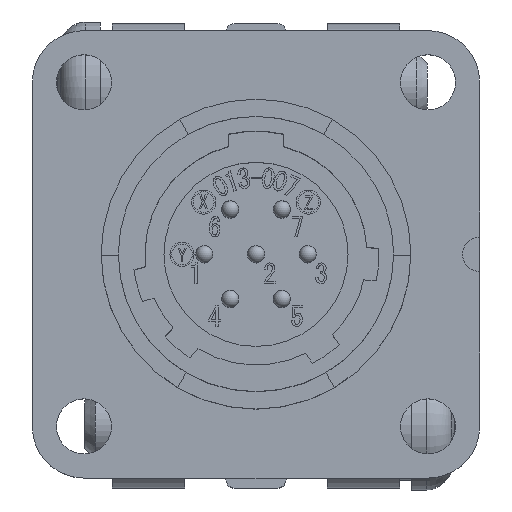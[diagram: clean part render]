
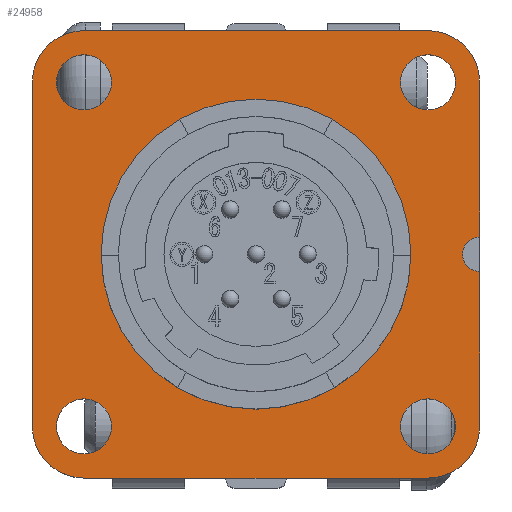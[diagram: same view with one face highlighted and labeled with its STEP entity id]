
A CAD part, top view. The second image highlights one B-rep face of the part: STEP entity #24958.
In plain terms, the highlighted planar face has unit normal (0, 0, 1).
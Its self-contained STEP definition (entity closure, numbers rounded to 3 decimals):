
#95 = CARTESIAN_POINT ( 'NONE',  ( 13., -10., -10.5 ) ) ;
#212 = AXIS2_PLACEMENT_3D ( 'NONE', #5192, #2560, #31311 ) ;
#256 = DIRECTION ( 'NONE',  ( 1., 0., 0. ) ) ;
#354 = EDGE_CURVE ( 'NONE', #11413, #11413, #32260, .T. ) ;
#496 = CARTESIAN_POINT ( 'NONE',  ( 13., 1., -10.5 ) ) ;
#1116 = EDGE_LOOP ( 'NONE', ( #18994 ) ) ;
#1284 = ORIENTED_EDGE ( 'NONE', *, *, #29826, .F. ) ;
#1420 = DIRECTION ( 'NONE',  ( 0., -1., 0. ) ) ;
#1422 = LINE ( 'NONE', #20886, #7516 ) ;
#1836 = CARTESIAN_POINT ( 'NONE',  ( -9., 0., -10.5 ) ) ;
#1862 = FACE_BOUND ( 'NONE', #32952, .T. ) ;
#1909 = CARTESIAN_POINT ( 'NONE',  ( 0., 13., -10.5 ) ) ;
#1936 = ORIENTED_EDGE ( 'NONE', *, *, #25991, .F. ) ;
#1953 = DIRECTION ( 'NONE',  ( 0., 0., -1. ) ) ;
#1980 = AXIS2_PLACEMENT_3D ( 'NONE', #32521, #19866, #4341 ) ;
#2466 = VERTEX_POINT ( 'NONE', #4578 ) ;
#2560 = DIRECTION ( 'NONE',  ( 0., 0., -1. ) ) ;
#2697 = CARTESIAN_POINT ( 'NONE',  ( 10., -13., -10.5 ) ) ;
#2790 = DIRECTION ( 'NONE',  ( 0., 0., -1. ) ) ;
#2969 = AXIS2_PLACEMENT_3D ( 'NONE', #30227, #32389, #19849 ) ;
#3506 = FACE_OUTER_BOUND ( 'NONE', #8608, .T. ) ;
#3552 = EDGE_CURVE ( 'NONE', #30857, #21541, #21968, .T. ) ;
#3881 = FACE_BOUND ( 'NONE', #31289, .T. ) ;
#4096 = VERTEX_POINT ( 'NONE', #29442 ) ;
#4180 = CARTESIAN_POINT ( 'NONE',  ( -10., -10., -10.5 ) ) ;
#4188 = DIRECTION ( 'NONE',  ( 0., 0., -1. ) ) ;
#4341 = DIRECTION ( 'NONE',  ( -1., 0., 0. ) ) ;
#4412 = VERTEX_POINT ( 'NONE', #2697 ) ;
#4542 = ORIENTED_EDGE ( 'NONE', *, *, #24573, .T. ) ;
#4578 = CARTESIAN_POINT ( 'NONE',  ( -11.6, 10., -10.5 ) ) ;
#4688 = CARTESIAN_POINT ( 'NONE',  ( 10., -10., -10.5 ) ) ;
#4925 = VERTEX_POINT ( 'NONE', #24810 ) ;
#5192 = CARTESIAN_POINT ( 'NONE',  ( 10., -10., -10.5 ) ) ;
#5229 = EDGE_CURVE ( 'NONE', #23927, #23927, #16694, .T. ) ;
#5305 = EDGE_LOOP ( 'NONE', ( #28305 ) ) ;
#5373 = EDGE_CURVE ( 'NONE', #21289, #30376, #30424, .T. ) ;
#5967 = AXIS2_PLACEMENT_3D ( 'NONE', #4688, #7293, #25389 ) ;
#5984 = DIRECTION ( 'NONE',  ( -1., 0., 0. ) ) ;
#6112 = CIRCLE ( 'NONE', #14486, 3. ) ;
#6123 = AXIS2_PLACEMENT_3D ( 'NONE', #1909, #4188, #27600 ) ;
#6288 = DIRECTION ( 'NONE',  ( 0., 1., 0. ) ) ;
#6730 = CARTESIAN_POINT ( 'NONE',  ( 10., 11.6, -10.5 ) ) ;
#6812 = DIRECTION ( 'NONE',  ( 1., 0., 0. ) ) ;
#7183 = ORIENTED_EDGE ( 'NONE', *, *, #3552, .F. ) ;
#7206 = VECTOR ( 'NONE', #1420, 1000. ) ;
#7293 = DIRECTION ( 'NONE',  ( 0., 0., 1. ) ) ;
#7494 = CIRCLE ( 'NONE', #31538, 1.6 ) ;
#7516 = VECTOR ( 'NONE', #256, 1000. ) ;
#7866 = CARTESIAN_POINT ( 'NONE',  ( 10., 10., -10.5 ) ) ;
#8265 = DIRECTION ( 'NONE',  ( 0., -1., 0. ) ) ;
#8306 = CARTESIAN_POINT ( 'NONE',  ( 13., -1., -10.5 ) ) ;
#8608 = EDGE_LOOP ( 'NONE', ( #30217, #7183, #33380, #1936, #1284, #29059, #21454, #8936, #16216, #29432 ) ) ;
#8804 = VERTEX_POINT ( 'NONE', #11252 ) ;
#8893 = DIRECTION ( 'NONE',  ( 0., -1., 0. ) ) ;
#8936 = ORIENTED_EDGE ( 'NONE', *, *, #21649, .T. ) ;
#9729 = CIRCLE ( 'NONE', #17462, 3. ) ;
#9781 = VECTOR ( 'NONE', #6288, 1000. ) ;
#9877 = CARTESIAN_POINT ( 'NONE',  ( -13., 10., -10.5 ) ) ;
#10158 = VERTEX_POINT ( 'NONE', #33233 ) ;
#10471 = DIRECTION ( 'NONE',  ( 0., 1., 0. ) ) ;
#10871 = DIRECTION ( 'NONE',  ( 0., 0., -1. ) ) ;
#11252 = CARTESIAN_POINT ( 'NONE',  ( 13., 10., -10.5 ) ) ;
#11321 = EDGE_LOOP ( 'NONE', ( #16535 ) ) ;
#11413 = VERTEX_POINT ( 'NONE', #21886 ) ;
#11433 = EDGE_CURVE ( 'NONE', #2466, #2466, #14794, .T. ) ;
#11690 = AXIS2_PLACEMENT_3D ( 'NONE', #20136, #2790, #23270 ) ;
#12248 = VERTEX_POINT ( 'NONE', #95 ) ;
#12494 = CARTESIAN_POINT ( 'NONE',  ( 10., 10., -10.5 ) ) ;
#13058 = EDGE_CURVE ( 'NONE', #8804, #30857, #18024, .T. ) ;
#13495 = VECTOR ( 'NONE', #5984, 1000. ) ;
#13516 = VECTOR ( 'NONE', #8893, 1000. ) ;
#14349 = CARTESIAN_POINT ( 'NONE',  ( 13., 0., -10.5 ) ) ;
#14486 = AXIS2_PLACEMENT_3D ( 'NONE', #4180, #32937, #22263 ) ;
#14794 = CIRCLE ( 'NONE', #11690, 1.6 ) ;
#15494 = EDGE_CURVE ( 'NONE', #4412, #12248, #20040, .T. ) ;
#16156 = EDGE_CURVE ( 'NONE', #4925, #4925, #7494, .T. ) ;
#16216 = ORIENTED_EDGE ( 'NONE', *, *, #32480, .F. ) ;
#16535 = ORIENTED_EDGE ( 'NONE', *, *, #354, .T. ) ;
#16694 = CIRCLE ( 'NONE', #29133, 1.6 ) ;
#17462 = AXIS2_PLACEMENT_3D ( 'NONE', #12494, #1953, #28102 ) ;
#17719 = FACE_BOUND ( 'NONE', #1116, .T. ) ;
#18024 = LINE ( 'NONE', #26771, #13516 ) ;
#18524 = AXIS2_PLACEMENT_3D ( 'NONE', #32380, #27619, #6812 ) ;
#18994 = ORIENTED_EDGE ( 'NONE', *, *, #5229, .T. ) ;
#19849 = DIRECTION ( 'NONE',  ( -1., 0., 0. ) ) ;
#19866 = DIRECTION ( 'NONE',  ( 0., 0., -1. ) ) ;
#20040 = CIRCLE ( 'NONE', #5967, 3. ) ;
#20136 = CARTESIAN_POINT ( 'NONE',  ( -10., 10., -10.5 ) ) ;
#20380 = EDGE_CURVE ( 'NONE', #4096, #30376, #24710, .T. ) ;
#20886 = CARTESIAN_POINT ( 'NONE',  ( 0., 13., -10.5 ) ) ;
#21289 = VERTEX_POINT ( 'NONE', #22227 ) ;
#21454 = ORIENTED_EDGE ( 'NONE', *, *, #5373, .F. ) ;
#21541 = VERTEX_POINT ( 'NONE', #8306 ) ;
#21649 = EDGE_CURVE ( 'NONE', #21289, #30866, #6112, .T. ) ;
#21740 = CIRCLE ( 'NONE', #1980, 9. ) ;
#21886 = CARTESIAN_POINT ( 'NONE',  ( 11.6, -10., -10.5 ) ) ;
#21968 = CIRCLE ( 'NONE', #18524, 1. ) ;
#22227 = CARTESIAN_POINT ( 'NONE',  ( -13., -10., -10.5 ) ) ;
#22263 = DIRECTION ( 'NONE',  ( -1., 0., 0. ) ) ;
#23270 = DIRECTION ( 'NONE',  ( -1., 0., 0. ) ) ;
#23758 = CARTESIAN_POINT ( 'NONE',  ( -10., -10., -10.5 ) ) ;
#23927 = VERTEX_POINT ( 'NONE', #6730 ) ;
#23973 = EDGE_CURVE ( 'NONE', #21541, #12248, #25414, .T. ) ;
#24573 = EDGE_CURVE ( 'NONE', #32044, #32044, #21740, .T. ) ;
#24710 = CIRCLE ( 'NONE', #2969, 3. ) ;
#24810 = CARTESIAN_POINT ( 'NONE',  ( -10., -11.6, -10.5 ) ) ;
#24879 = PLANE ( 'NONE',  #6123 ) ;
#24958 = ADVANCED_FACE ( 'NONE', ( #29421, #25350, #3506, #3881, #17719, #1862 ), #24879, .F. ) ;
#25350 = FACE_BOUND ( 'NONE', #5305, .T. ) ;
#25389 = DIRECTION ( 'NONE',  ( -1., 0., 0. ) ) ;
#25414 = LINE ( 'NONE', #14349, #7206 ) ;
#25518 = DIRECTION ( 'NONE',  ( 0., 0., -1. ) ) ;
#25991 = EDGE_CURVE ( 'NONE', #10158, #8804, #9729, .T. ) ;
#26725 = ORIENTED_EDGE ( 'NONE', *, *, #16156, .T. ) ;
#26771 = CARTESIAN_POINT ( 'NONE',  ( 13., 0., -10.5 ) ) ;
#26840 = LINE ( 'NONE', #29505, #13495 ) ;
#27407 = CARTESIAN_POINT ( 'NONE',  ( -13., 0., -10.5 ) ) ;
#27600 = DIRECTION ( 'NONE',  ( -1., 0., 0. ) ) ;
#27619 = DIRECTION ( 'NONE',  ( 0., 0., 1. ) ) ;
#28102 = DIRECTION ( 'NONE',  ( -1., 0., 0. ) ) ;
#28305 = ORIENTED_EDGE ( 'NONE', *, *, #11433, .T. ) ;
#29059 = ORIENTED_EDGE ( 'NONE', *, *, #20380, .T. ) ;
#29133 = AXIS2_PLACEMENT_3D ( 'NONE', #7866, #25518, #10471 ) ;
#29421 = FACE_BOUND ( 'NONE', #11321, .T. ) ;
#29432 = ORIENTED_EDGE ( 'NONE', *, *, #15494, .T. ) ;
#29442 = CARTESIAN_POINT ( 'NONE',  ( -10., 13., -10.5 ) ) ;
#29505 = CARTESIAN_POINT ( 'NONE',  ( 0., -13., -10.5 ) ) ;
#29826 = EDGE_CURVE ( 'NONE', #4096, #10158, #1422, .T. ) ;
#30217 = ORIENTED_EDGE ( 'NONE', *, *, #23973, .F. ) ;
#30227 = CARTESIAN_POINT ( 'NONE',  ( -10., 10., -10.5 ) ) ;
#30376 = VERTEX_POINT ( 'NONE', #9877 ) ;
#30424 = LINE ( 'NONE', #27407, #9781 ) ;
#30857 = VERTEX_POINT ( 'NONE', #496 ) ;
#30866 = VERTEX_POINT ( 'NONE', #31751 ) ;
#31289 = EDGE_LOOP ( 'NONE', ( #4542 ) ) ;
#31311 = DIRECTION ( 'NONE',  ( 1., 0., 0. ) ) ;
#31538 = AXIS2_PLACEMENT_3D ( 'NONE', #23758, #10871, #8265 ) ;
#31751 = CARTESIAN_POINT ( 'NONE',  ( -10., -13., -10.5 ) ) ;
#32044 = VERTEX_POINT ( 'NONE', #1836 ) ;
#32260 = CIRCLE ( 'NONE', #212, 1.6 ) ;
#32380 = CARTESIAN_POINT ( 'NONE',  ( 13., 0., -10.5 ) ) ;
#32389 = DIRECTION ( 'NONE',  ( 0., 0., 1. ) ) ;
#32480 = EDGE_CURVE ( 'NONE', #4412, #30866, #26840, .T. ) ;
#32521 = CARTESIAN_POINT ( 'NONE',  ( 0., 0., -10.5 ) ) ;
#32937 = DIRECTION ( 'NONE',  ( 0., 0., 1. ) ) ;
#32952 = EDGE_LOOP ( 'NONE', ( #26725 ) ) ;
#33233 = CARTESIAN_POINT ( 'NONE',  ( 10., 13., -10.5 ) ) ;
#33380 = ORIENTED_EDGE ( 'NONE', *, *, #13058, .F. ) ;
